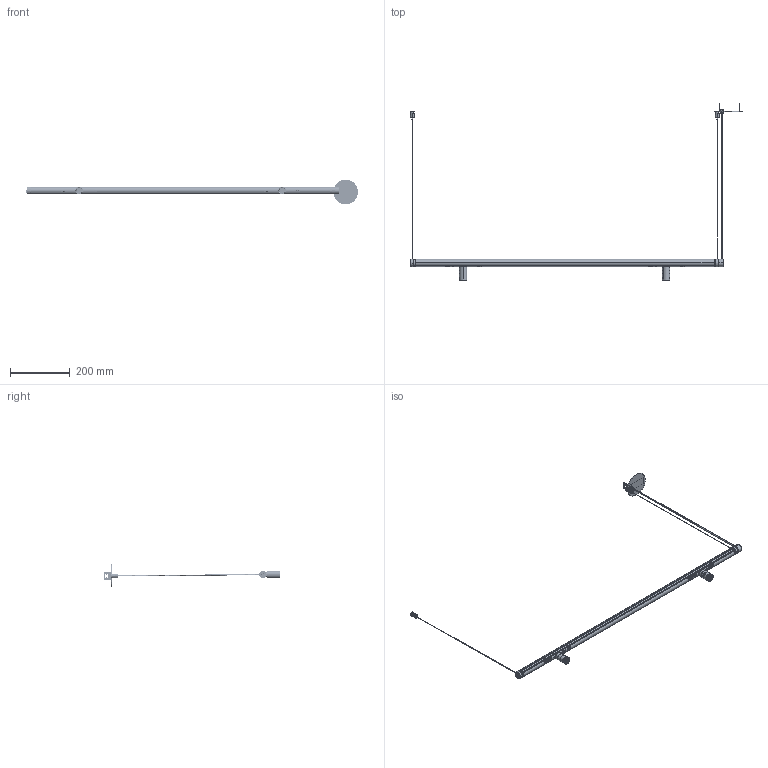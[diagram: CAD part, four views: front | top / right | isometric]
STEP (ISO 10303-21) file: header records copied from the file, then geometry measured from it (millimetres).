
FILE_DESCRIPTION (( 'STEP AP214' ), '1' );
FILE_NAME ('OVAL SPOT 10 rec.STEP', '2024-03-15T08:46:44', ( '' ), ( '' ), 'SwSTEP 2.0', 'SolidWorks 2024', '' );
FILE_SCHEMA (( 'AUTOMOTIVE_DESIGN' ));
Length unit declared in the file: millimetre
Products named in the file (40): 04-23DM01-Adaptador_Caja_DM01.3; OVAL SPOT 10 rec; Perfil Micro V4_1m; CUI_DEVICES_PJ-005B_Ø2.5; Jack_Scpre; Taco Micro_Ø10 M10*5; BLX V-4 Single Array; Cable_VISUAL Alimentación Micro; Regulador Cable Ø0.6 (Bereta LT1007.0601); Lente -115.11.HILL-20-22°-CREE; countersunk flat head cross recess screw_din_DIN EN ISO 7046-1 - M2.5 x 6 - Z - 6N; Tuerca Hembra Conector Jack; 04-23DM02-Adaptador_Tapa(V1.2)_24V; Difusor Negro Oval_0.1m; DM05-Tapa SPOT(V1.2); Tapa Floron Emp. MICRO_Tapa empotarable; Driver Entity EN1689; Tija Tiny_Inyección ; Ensamble Led; CJ01-ENS_Adaptador 24V_Proyector; Floron U Muelle MICRO; Boca Focus 25_ZDNTL; Tuerca M8_Predeterminada; Difusor Negro Oval_0.56m; Ensamble Tensor Micro_Con Cable; Tapa Alimentación Perfil_SCPRE; eje cable colgante_M8 MICRO; 04-23DM03-Tope_Adaptador_1.3; CJ04 - ENS Foco Spot (V1.2)_V3 09-20; Taco cuerpo Micro; Tubo Alu. Focus 25_V3-30-09-21; Conector Molex Hembra 43020; Ensamble Tapa + Tope_Con Conector; Holder; Tapa Micro V5_V5.1; Ensamblaje FLORON EMP. MICRO; Cable acero_0.5m; Ensamble Conector Jack Unión_Alimentación Colgante SCPRE; Prisionero STEAB M4x4_8; Tapa Unión-Final V5_V5.1 Colgante Union 
Assembly tree (48 placements, depth 4):
  OVAL SPOT 10 rec
    Perfil Micro V4_1m
    CJ01-ENS_Adaptador 24V_Proyector  x2
      04-23DM01-Adaptador_Caja_DM01.3
      04-23DM02-Adaptador_Tapa(V1.2)_24V
      Conector Molex Hembra 43020
      Driver Entity EN1689
      04-23DM03-Tope_Adaptador_1.3
      Tija Tiny_Inyección 
    CJ04 - ENS Foco Spot (V1.2)_V3 09-20  x2
      Tubo Alu. Focus 25_V3-30-09-21
      Boca Focus 25_ZDNTL
      Ensamble Led
        BLX V-4 Single Array
        Holder
        countersunk flat head cross recess screw_din_DIN EN ISO 7046-1 - M2.5 x 6 - Z - 6N  x2
      Prisionero STEAB M4x4_8
      Lente -115.11.HILL-20-22°-CREE
      DM05-Tapa SPOT(V1.2)
    Difusor Negro Oval_0.1m  x2
    Difusor Negro Oval_0.56m
    Ensamble Tapa + Tope_Con Conector  x2
      Tapa Micro V5_V5.1
      CUI_DEVICES_PJ-005B_Ø2.5
      Tuerca Hembra Conector Jack
    Ensamble Tensor Micro_Con Cable  x2
      Taco Micro_Ø10 M10*5
      Taco cuerpo Micro
      Regulador Cable Ø0.6 (Bereta LT1007.0601)
      Cable acero_0.5m
    Tapa Unión-Final V5_V5.1 Colgante Union   x2
    Ensamble Conector Jack Unión_Alimentación Colgante SCPRE
      Cable_VISUAL Alimentación Micro
      Jack_Scpre
      Tapa Alimentación Perfil_SCPRE
      Prisionero STEAB M4x4_8
    Ensamblaje FLORON EMP. MICRO
      Tapa Floron Emp. MICRO_Tapa empotarable
      Floron U Muelle MICRO
      eje cable colgante_M8 MICRO
      Tuerca M8_Predeterminada
Bounding box: 1111.94 x 590.07 x 83.01 mm (x, y, z)
Volume: 231863.4 mm3; surface area: 300770 mm2
Topology: 59 solids, 91 shells, 4354 faces, 11532 edges, 7381 vertices
Faces by surface type: plane 1612, cylinder 1577, bspline 517, torus 323, cone 237, sphere 88
Entity records: 112889 total; most frequent: CARTESIAN_POINT 60246, ORIENTED_EDGE 11489, DIRECTION 9830, EDGE_CURVE 5792, VERTEX_POINT 3771, AXIS2_PLACEMENT_3D 3624, VECTOR 2582, LINE 2582
